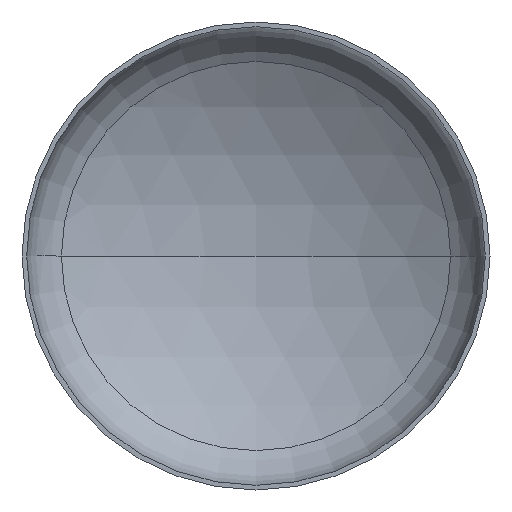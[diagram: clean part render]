
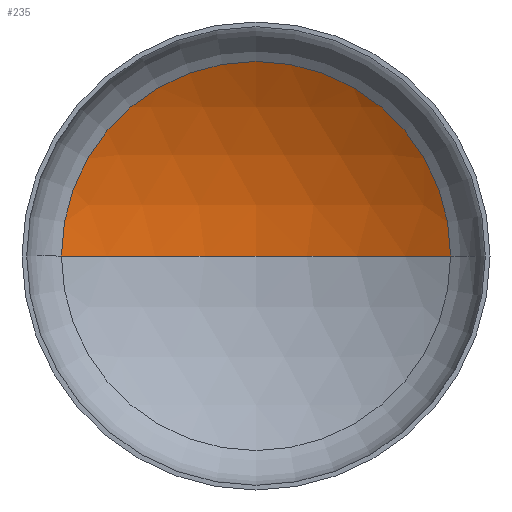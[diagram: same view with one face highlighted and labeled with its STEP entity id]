
A CAD part, front view. The second image highlights one B-rep face of the part: STEP entity #235.
In plain terms, the highlighted spherical face has radius 880 mm.
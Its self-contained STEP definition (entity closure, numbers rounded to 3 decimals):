
#1 = EDGE_LOOP ( 'NONE', ( #406, #88, #48 ) ) ;
#4 = AXIS2_PLACEMENT_3D ( 'NONE', #403, #77, #159 ) ;
#8 = AXIS2_PLACEMENT_3D ( 'NONE', #334, #141, #369 ) ;
#15 = VERTEX_POINT ( 'NONE', #302 ) ;
#33 = DIRECTION ( 'NONE',  ( -1., 0., 0. ) ) ;
#44 = AXIS2_PLACEMENT_3D ( 'NONE', #197, #256, #33 ) ;
#45 = FACE_OUTER_BOUND ( 'NONE', #1, .T. ) ;
#48 = ORIENTED_EDGE ( 'NONE', *, *, #153, .T. ) ;
#59 = AXIS2_PLACEMENT_3D ( 'NONE', #238, #275, #272 ) ;
#72 = VERTEX_POINT ( 'NONE', #255 ) ;
#77 = DIRECTION ( 'NONE',  ( 0., 0., 1. ) ) ;
#88 = ORIENTED_EDGE ( 'NONE', *, *, #353, .T. ) ;
#98 = VERTEX_POINT ( 'NONE', #345 ) ;
#110 = CIRCLE ( 'NONE', #59, 457.352 ) ;
#141 = DIRECTION ( 'NONE',  ( 0., 0., -1. ) ) ;
#153 = EDGE_CURVE ( 'NONE', #98, #15, #110, .T. ) ;
#159 = DIRECTION ( 'NONE',  ( 1., 0., 0. ) ) ;
#160 = CIRCLE ( 'NONE', #4, 880. ) ;
#197 = CARTESIAN_POINT ( 'NONE',  ( 0., -566.58, 0. ) ) ;
#235 = ADVANCED_FACE ( 'NONE', ( #45 ), #311, .F. ) ;
#238 = CARTESIAN_POINT ( 'NONE',  ( 0., 185.237, 0. ) ) ;
#255 = CARTESIAN_POINT ( 'NONE',  ( 0., 313.42, 0. ) ) ;
#256 = DIRECTION ( 'NONE',  ( 0., 0., -1. ) ) ;
#272 = DIRECTION ( 'NONE',  ( 1., 0., 0. ) ) ;
#275 = DIRECTION ( 'NONE',  ( 0., -1., 0. ) ) ;
#302 = CARTESIAN_POINT ( 'NONE',  ( -457.352, 185.237, 0. ) ) ;
#311 = SPHERICAL_SURFACE ( 'NONE', #44, 880. ) ;
#334 = CARTESIAN_POINT ( 'NONE',  ( 0., -566.58, 0. ) ) ;
#345 = CARTESIAN_POINT ( 'NONE',  ( 457.352, 185.237, 0. ) ) ;
#350 = CIRCLE ( 'NONE', #8, 880. ) ;
#353 = EDGE_CURVE ( 'NONE', #72, #98, #350, .T. ) ;
#354 = EDGE_CURVE ( 'NONE', #72, #15, #160, .T. ) ;
#369 = DIRECTION ( 'NONE',  ( -1., 0., 0. ) ) ;
#403 = CARTESIAN_POINT ( 'NONE',  ( 0., -566.58, 0. ) ) ;
#406 = ORIENTED_EDGE ( 'NONE', *, *, #354, .F. ) ;
